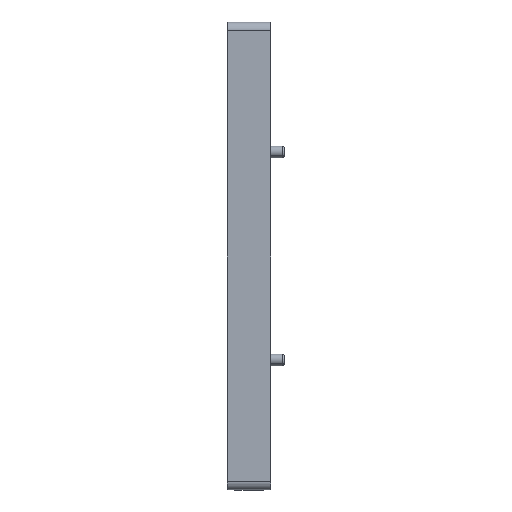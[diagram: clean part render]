
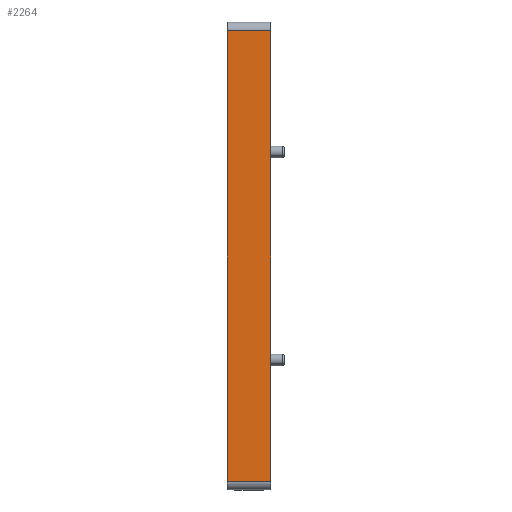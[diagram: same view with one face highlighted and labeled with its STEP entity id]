
A CAD part, left-side view. The second image highlights one B-rep face of the part: STEP entity #2264.
In plain terms, the highlighted planar face has unit normal (-1, 0, 0).
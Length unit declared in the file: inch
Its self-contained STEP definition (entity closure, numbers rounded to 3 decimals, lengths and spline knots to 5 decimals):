
#486 = LINE ( 'NONE', #16784, #20946 ) ;
#1020 = DIRECTION ( 'NONE',  ( 0., -1., 0. ) ) ;
#2027 = VECTOR ( 'NONE', #1020, 39.37008 ) ;
#2264 = ADVANCED_FACE ( 'NONE', ( #6518 ), #26373, .F. ) ;
#2296 = VECTOR ( 'NONE', #7932, 39.37008 ) ;
#2848 = VECTOR ( 'NONE', #19094, 39.37008 ) ;
#5095 = CARTESIAN_POINT ( 'NONE',  ( -2.15, 0.5, 2.6 ) ) ;
#6287 = CARTESIAN_POINT ( 'NONE',  ( -2.15, 0., -2.6 ) ) ;
#6518 = FACE_OUTER_BOUND ( 'NONE', #14098, .T. ) ;
#6686 = LINE ( 'NONE', #23487, #2848 ) ;
#7197 = ORIENTED_EDGE ( 'NONE', *, *, #25649, .F. ) ;
#7932 = DIRECTION ( 'NONE',  ( 0., 0., 1. ) ) ;
#7941 = EDGE_CURVE ( 'NONE', #11079, #18363, #486, .T. ) ;
#8023 = DIRECTION ( 'NONE',  ( 1., 0., 0. ) ) ;
#9952 = VERTEX_POINT ( 'NONE', #6287 ) ;
#10602 = CARTESIAN_POINT ( 'NONE',  ( -2.15, 0., 2.6 ) ) ;
#11079 = VERTEX_POINT ( 'NONE', #10602 ) ;
#12239 = EDGE_CURVE ( 'NONE', #9952, #11079, #6686, .T. ) ;
#13320 = AXIS2_PLACEMENT_3D ( 'NONE', #20794, #8023, #16639 ) ;
#14098 = EDGE_LOOP ( 'NONE', ( #14422, #18351, #7197, #22814 ) ) ;
#14422 = ORIENTED_EDGE ( 'NONE', *, *, #12239, .T. ) ;
#14818 = DIRECTION ( 'NONE',  ( 0., 1., 0. ) ) ;
#15334 = LINE ( 'NONE', #17554, #2027 ) ;
#16050 = CARTESIAN_POINT ( 'NONE',  ( -2.15, 0.5, -2.7 ) ) ;
#16639 = DIRECTION ( 'NONE',  ( 0., 0., -1. ) ) ;
#16784 = CARTESIAN_POINT ( 'NONE',  ( -2.15, 0.5, 2.6 ) ) ;
#17554 = CARTESIAN_POINT ( 'NONE',  ( -2.15, 0.5, -2.6 ) ) ;
#18351 = ORIENTED_EDGE ( 'NONE', *, *, #7941, .T. ) ;
#18363 = VERTEX_POINT ( 'NONE', #5095 ) ;
#19094 = DIRECTION ( 'NONE',  ( 0., 0., 1. ) ) ;
#19593 = VERTEX_POINT ( 'NONE', #21619 ) ;
#20693 = EDGE_CURVE ( 'NONE', #19593, #9952, #15334, .T. ) ;
#20794 = CARTESIAN_POINT ( 'NONE',  ( -2.15, 0.5, -2.7 ) ) ;
#20946 = VECTOR ( 'NONE', #14818, 39.37008 ) ;
#21619 = CARTESIAN_POINT ( 'NONE',  ( -2.15, 0.5, -2.6 ) ) ;
#22814 = ORIENTED_EDGE ( 'NONE', *, *, #20693, .T. ) ;
#23487 = CARTESIAN_POINT ( 'NONE',  ( -2.15, 0., -2.7 ) ) ;
#25649 = EDGE_CURVE ( 'NONE', #19593, #18363, #26162, .T. ) ;
#26162 = LINE ( 'NONE', #16050, #2296 ) ;
#26373 = PLANE ( 'NONE',  #13320 ) ;
